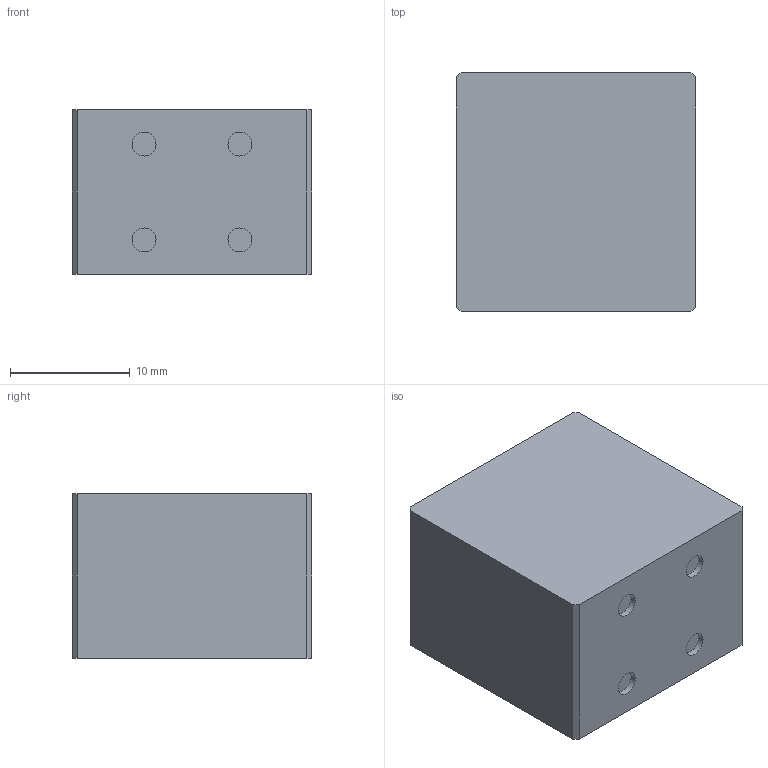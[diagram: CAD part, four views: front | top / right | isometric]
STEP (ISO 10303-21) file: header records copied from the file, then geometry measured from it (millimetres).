
FILE_DESCRIPTION(('Open CASCADE Model'),'2;1');
FILE_NAME('Open CASCADE Shape Model','2026-08-23T08:04:37',('Author'),( 'Open CASCADE'),'Open CASCADE STEP processor 7.9','Open CASCADE 7.9' ,'Unknown');
FILE_SCHEMA(('AUTOMOTIVE_DESIGN { 1 0 10303 214 1 1 1 1 }'));
Length unit declared in the file: millimetre
Products named in the file (2): =>[0:1:1:2]; COMPOUND
Assembly tree (1 placements, depth 2):
  =>[0:1:1:2]
    COMPOUND
Bounding box: 20 x 20 x 13.75 mm (x, y, z)
Volume: 5489.3 mm3; surface area: 1899 mm2
Topology: 1 solids, 1 shells, 18 faces, 36 edges, 24 vertices
Faces by surface type: plane 14, cylinder 4
Full cylindrical faces by diameter (mm): 2 x4
Entity records: 992 total; most frequent: CARTESIAN_POINT 176, DIRECTION 152, LINE 92, VECTOR 92, ORIENTED_EDGE 72, PCURVE 72, DEFINITIONAL_REPRESENTATION 72, EDGE_CURVE 36
